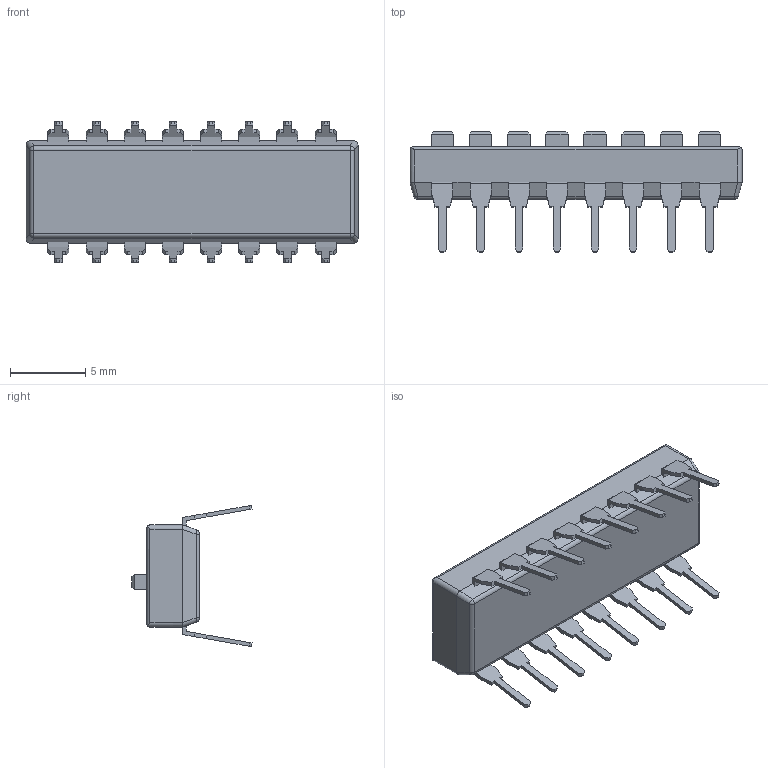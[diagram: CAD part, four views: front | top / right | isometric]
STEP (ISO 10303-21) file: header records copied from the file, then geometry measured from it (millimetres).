
FILE_DESCRIPTION (( 'STEP AP214' ), '1' );
FILE_NAME ('SSGM180100.STEP', '2011-04-13T01:08:04', ( '' ), ( '' ), 'SwSTEP 2.0', 'SolidWorks 2007', '' );
FILE_SCHEMA (( 'AUTOMOTIVE_DESIGN' ));
Length unit declared in the file: millimetre
Products named in the file (1): SSGM180100
Bounding box: 22.1 x 8 x 9.41 mm (x, y, z)
Volume: 527.4 mm3; surface area: 748.6 mm2
Topology: 1 solids, 1 shells, 430 faces, 1164 edges, 748 vertices
Faces by surface type: plane 394, cylinder 32, sphere 4
Entity records: 17594 total; most frequent: CARTESIAN_POINT 2419, ORIENTED_EDGE 2320, DIRECTION 2042, EDGE_CURVE 1160, VECTOR 1092, LINE 1092, VERTEX_POINT 748, AXIS2_PLACEMENT_3D 475
